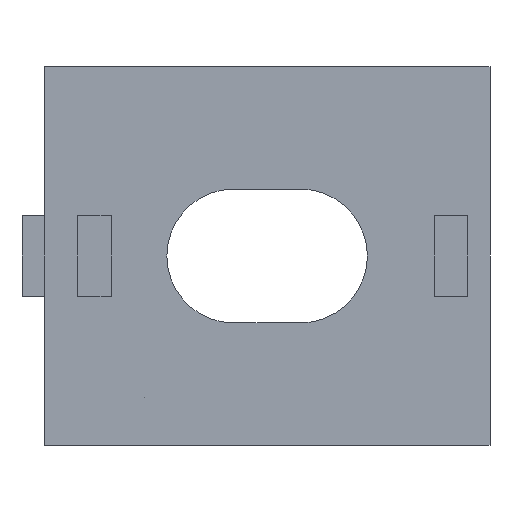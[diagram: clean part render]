
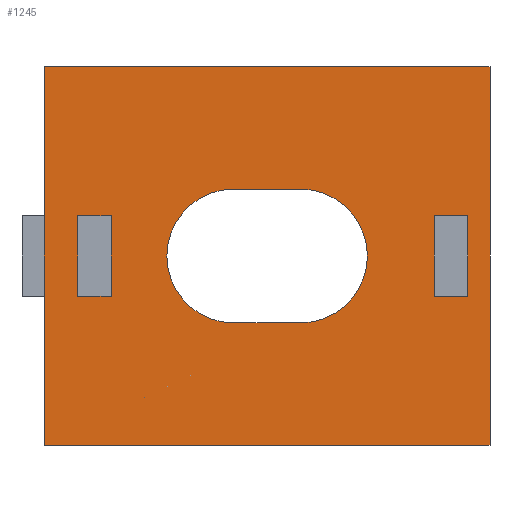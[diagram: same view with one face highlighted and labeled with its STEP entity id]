
A CAD part, front view. The second image highlights one B-rep face of the part: STEP entity #1245.
In plain terms, the highlighted planar face has unit normal (0, -1, 0).
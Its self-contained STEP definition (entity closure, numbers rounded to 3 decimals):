
#17 = CARTESIAN_POINT ( 'NONE',  ( 9., -10., -1.8 ) ) ;
#25 = LINE ( 'NONE', #1211, #560 ) ;
#26 = EDGE_CURVE ( 'NONE', #132, #699, #197, .T. ) ;
#27 = CARTESIAN_POINT ( 'NONE',  ( -10., -10., 8.5 ) ) ;
#38 = VECTOR ( 'NONE', #1122, 1000. ) ;
#39 = VERTEX_POINT ( 'NONE', #27 ) ;
#42 = ORIENTED_EDGE ( 'NONE', *, *, #639, .T. ) ;
#54 = CARTESIAN_POINT ( 'NONE',  ( -10., -10., 8.5 ) ) ;
#57 = CARTESIAN_POINT ( 'NONE',  ( -1.5, -10., 0. ) ) ;
#61 = CARTESIAN_POINT ( 'NONE',  ( 9., -10., 1.8 ) ) ;
#63 = CARTESIAN_POINT ( 'NONE',  ( 1.5, -10., 3. ) ) ;
#65 = AXIS2_PLACEMENT_3D ( 'NONE', #984, #845, #713 ) ;
#75 = CARTESIAN_POINT ( 'NONE',  ( -7., -10., 1.8 ) ) ;
#90 = VERTEX_POINT ( 'NONE', #1250 ) ;
#99 = DIRECTION ( 'NONE',  ( -1., 0., 0. ) ) ;
#120 = LINE ( 'NONE', #627, #630 ) ;
#126 = DIRECTION ( 'NONE',  ( 0., 0., -1. ) ) ;
#130 = VECTOR ( 'NONE', #307, 1000. ) ;
#132 = VERTEX_POINT ( 'NONE', #445 ) ;
#134 = VERTEX_POINT ( 'NONE', #313 ) ;
#144 = CIRCLE ( 'NONE', #369, 3. ) ;
#158 = ORIENTED_EDGE ( 'NONE', *, *, #444, .T. ) ;
#161 = DIRECTION ( 'NONE',  ( -1., 0., 0. ) ) ;
#183 = ORIENTED_EDGE ( 'NONE', *, *, #779, .T. ) ;
#187 = EDGE_CURVE ( 'NONE', #760, #335, #894, .T. ) ;
#189 = LINE ( 'NONE', #54, #928 ) ;
#192 = DIRECTION ( 'NONE',  ( 0., 0., 1. ) ) ;
#197 = LINE ( 'NONE', #61, #1241 ) ;
#211 = LINE ( 'NONE', #75, #740 ) ;
#223 = ORIENTED_EDGE ( 'NONE', *, *, #26, .T. ) ;
#233 = DIRECTION ( 'NONE',  ( 0., 1., 0. ) ) ;
#262 = VECTOR ( 'NONE', #527, 1000. ) ;
#268 = CARTESIAN_POINT ( 'NONE',  ( -7., -10., -1.8 ) ) ;
#304 = CARTESIAN_POINT ( 'NONE',  ( 1.5, -10., -3. ) ) ;
#307 = DIRECTION ( 'NONE',  ( 1., 0., 0. ) ) ;
#313 = CARTESIAN_POINT ( 'NONE',  ( 9., -10., -1.8 ) ) ;
#322 = EDGE_LOOP ( 'NONE', ( #510, #42, #158, #480, #597 ) ) ;
#326 = CARTESIAN_POINT ( 'NONE',  ( 9., -10., 1.8 ) ) ;
#327 = CARTESIAN_POINT ( 'NONE',  ( -8.5, -10., 1.8 ) ) ;
#330 = CARTESIAN_POINT ( 'NONE',  ( 7.5, -10., -1.8 ) ) ;
#335 = VERTEX_POINT ( 'NONE', #327 ) ;
#337 = EDGE_CURVE ( 'NONE', #39, #1131, #189, .T. ) ;
#359 = DIRECTION ( 'NONE',  ( 0., 0., -1. ) ) ;
#369 = AXIS2_PLACEMENT_3D ( 'NONE', #374, #233, #99 ) ;
#374 = CARTESIAN_POINT ( 'NONE',  ( 1.5, -10., 0. ) ) ;
#404 = LINE ( 'NONE', #268, #897 ) ;
#419 = DIRECTION ( 'NONE',  ( -1., 0., 0. ) ) ;
#432 = LINE ( 'NONE', #304, #523 ) ;
#436 = CARTESIAN_POINT ( 'NONE',  ( -10., -10., 8.5 ) ) ;
#444 = EDGE_CURVE ( 'NONE', #810, #1028, #432, .T. ) ;
#445 = CARTESIAN_POINT ( 'NONE',  ( 7.5, -10., 1.8 ) ) ;
#448 = EDGE_CURVE ( 'NONE', #1131, #854, #25, .T. ) ;
#467 = LINE ( 'NONE', #330, #532 ) ;
#480 = ORIENTED_EDGE ( 'NONE', *, *, #1145, .T. ) ;
#492 = CARTESIAN_POINT ( 'NONE',  ( 9., -10., -1.8 ) ) ;
#499 = DIRECTION ( 'NONE',  ( -1., 0., 0. ) ) ;
#501 = AXIS2_PLACEMENT_3D ( 'NONE', #57, #1236, #1106 ) ;
#502 = VERTEX_POINT ( 'NONE', #1249 ) ;
#505 = VECTOR ( 'NONE', #359, 1000. ) ;
#510 = ORIENTED_EDGE ( 'NONE', *, *, #885, .T. ) ;
#523 = VECTOR ( 'NONE', #161, 1000. ) ;
#527 = DIRECTION ( 'NONE',  ( 0., 0., -1. ) ) ;
#532 = VECTOR ( 'NONE', #192, 1000. ) ;
#540 = ORIENTED_EDGE ( 'NONE', *, *, #1248, .F. ) ;
#552 = CIRCLE ( 'NONE', #501, 3. ) ;
#553 = DIRECTION ( 'NONE',  ( 0., 1., 0. ) ) ;
#560 = VECTOR ( 'NONE', #1077, 1000. ) ;
#568 = CARTESIAN_POINT ( 'NONE',  ( 7.5, -10., -1.8 ) ) ;
#573 = LINE ( 'NONE', #436, #130 ) ;
#586 = EDGE_CURVE ( 'NONE', #335, #938, #211, .T. ) ;
#590 = EDGE_CURVE ( 'NONE', #502, #1233, #995, .T. ) ;
#597 = ORIENTED_EDGE ( 'NONE', *, *, #590, .T. ) ;
#599 = CARTESIAN_POINT ( 'NONE',  ( -10., -10., -8.5 ) ) ;
#620 = LINE ( 'NONE', #492, #505 ) ;
#627 = CARTESIAN_POINT ( 'NONE',  ( -7., -10., -1.8 ) ) ;
#629 = VERTEX_POINT ( 'NONE', #1225 ) ;
#630 = VECTOR ( 'NONE', #499, 1000. ) ;
#632 = EDGE_LOOP ( 'NONE', ( #829, #776, #1059, #223 ) ) ;
#639 = EDGE_CURVE ( 'NONE', #90, #810, #1060, .T. ) ;
#664 = CARTESIAN_POINT ( 'NONE',  ( 10., -10., 8.5 ) ) ;
#685 = EDGE_CURVE ( 'NONE', #699, #134, #620, .T. ) ;
#693 = CARTESIAN_POINT ( 'NONE',  ( 1.5, -10., 0. ) ) ;
#699 = VERTEX_POINT ( 'NONE', #326 ) ;
#702 = VECTOR ( 'NONE', #833, 1000. ) ;
#713 = DIRECTION ( 'NONE',  ( -1., 0., 0. ) ) ;
#722 = DIRECTION ( 'NONE',  ( 1., 0., 0. ) ) ;
#733 = AXIS2_PLACEMENT_3D ( 'NONE', #693, #553, #419 ) ;
#735 = EDGE_LOOP ( 'NONE', ( #770, #1137, #540, #933 ) ) ;
#740 = VECTOR ( 'NONE', #1258, 1000. ) ;
#750 = EDGE_CURVE ( 'NONE', #1104, #854, #807, .T. ) ;
#760 = VERTEX_POINT ( 'NONE', #908 ) ;
#770 = ORIENTED_EDGE ( 'NONE', *, *, #448, .T. ) ;
#776 = ORIENTED_EDGE ( 'NONE', *, *, #959, .T. ) ;
#779 = EDGE_CURVE ( 'NONE', #629, #760, #120, .T. ) ;
#802 = VERTEX_POINT ( 'NONE', #568 ) ;
#807 = LINE ( 'NONE', #664, #262 ) ;
#810 = VERTEX_POINT ( 'NONE', #1210 ) ;
#817 = EDGE_LOOP ( 'NONE', ( #887, #183, #895, #1022 ) ) ;
#829 = ORIENTED_EDGE ( 'NONE', *, *, #685, .T. ) ;
#833 = DIRECTION ( 'NONE',  ( -1., 0., 0. ) ) ;
#841 = FACE_BOUND ( 'NONE', #817, .T. ) ;
#845 = DIRECTION ( 'NONE',  ( 0., 1., 0. ) ) ;
#847 = EDGE_CURVE ( 'NONE', #938, #629, #404, .T. ) ;
#854 = VERTEX_POINT ( 'NONE', #915 ) ;
#856 = CARTESIAN_POINT ( 'NONE',  ( 1.5, -10., 3. ) ) ;
#874 = CARTESIAN_POINT ( 'NONE',  ( 10., -10., 8.5 ) ) ;
#885 = EDGE_CURVE ( 'NONE', #1233, #90, #144, .T. ) ;
#887 = ORIENTED_EDGE ( 'NONE', *, *, #847, .T. ) ;
#894 = LINE ( 'NONE', #1259, #38 ) ;
#895 = ORIENTED_EDGE ( 'NONE', *, *, #187, .T. ) ;
#897 = VECTOR ( 'NONE', #126, 1000. ) ;
#908 = CARTESIAN_POINT ( 'NONE',  ( -8.5, -10., -1.8 ) ) ;
#915 = CARTESIAN_POINT ( 'NONE',  ( 10., -10., -8.5 ) ) ;
#928 = VECTOR ( 'NONE', #1232, 1000. ) ;
#933 = ORIENTED_EDGE ( 'NONE', *, *, #337, .T. ) ;
#938 = VERTEX_POINT ( 'NONE', #1247 ) ;
#959 = EDGE_CURVE ( 'NONE', #134, #802, #1185, .T. ) ;
#984 = CARTESIAN_POINT ( 'NONE',  ( -10., -10., 8.5 ) ) ;
#995 = LINE ( 'NONE', #856, #1256 ) ;
#1022 = ORIENTED_EDGE ( 'NONE', *, *, #586, .T. ) ;
#1028 = VERTEX_POINT ( 'NONE', #1127 ) ;
#1059 = ORIENTED_EDGE ( 'NONE', *, *, #1142, .T. ) ;
#1060 = CIRCLE ( 'NONE', #733, 3. ) ;
#1077 = DIRECTION ( 'NONE',  ( 1., 0., 0. ) ) ;
#1104 = VERTEX_POINT ( 'NONE', #874 ) ;
#1106 = DIRECTION ( 'NONE',  ( -1., 0., 0. ) ) ;
#1113 = PLANE ( 'NONE',  #65 ) ;
#1122 = DIRECTION ( 'NONE',  ( 0., 0., 1. ) ) ;
#1127 = CARTESIAN_POINT ( 'NONE',  ( -1.5, -10., -3. ) ) ;
#1131 = VERTEX_POINT ( 'NONE', #599 ) ;
#1137 = ORIENTED_EDGE ( 'NONE', *, *, #750, .F. ) ;
#1142 = EDGE_CURVE ( 'NONE', #802, #132, #467, .T. ) ;
#1145 = EDGE_CURVE ( 'NONE', #1028, #502, #552, .T. ) ;
#1178 = FACE_BOUND ( 'NONE', #632, .T. ) ;
#1185 = LINE ( 'NONE', #17, #702 ) ;
#1210 = CARTESIAN_POINT ( 'NONE',  ( 1.5, -10., -3. ) ) ;
#1211 = CARTESIAN_POINT ( 'NONE',  ( -10., -10., -8.5 ) ) ;
#1225 = CARTESIAN_POINT ( 'NONE',  ( -7., -10., -1.8 ) ) ;
#1232 = DIRECTION ( 'NONE',  ( 0., 0., -1. ) ) ;
#1233 = VERTEX_POINT ( 'NONE', #63 ) ;
#1236 = DIRECTION ( 'NONE',  ( 0., 1., 0. ) ) ;
#1240 = DIRECTION ( 'NONE',  ( 1., 0., 0. ) ) ;
#1241 = VECTOR ( 'NONE', #1240, 1000. ) ;
#1244 = FACE_OUTER_BOUND ( 'NONE', #735, .T. ) ;
#1245 = ADVANCED_FACE ( 'NONE', ( #841, #1178, #1244, #1316 ), #1113, .F. ) ;
#1247 = CARTESIAN_POINT ( 'NONE',  ( -7., -10., 1.8 ) ) ;
#1248 = EDGE_CURVE ( 'NONE', #39, #1104, #573, .T. ) ;
#1249 = CARTESIAN_POINT ( 'NONE',  ( -1.5, -10., 3. ) ) ;
#1250 = CARTESIAN_POINT ( 'NONE',  ( 4.5, -10., 0. ) ) ;
#1256 = VECTOR ( 'NONE', #722, 1000. ) ;
#1258 = DIRECTION ( 'NONE',  ( 1., 0., 0. ) ) ;
#1259 = CARTESIAN_POINT ( 'NONE',  ( -8.5, -10., -1.8 ) ) ;
#1316 = FACE_BOUND ( 'NONE', #322, .T. ) ;
